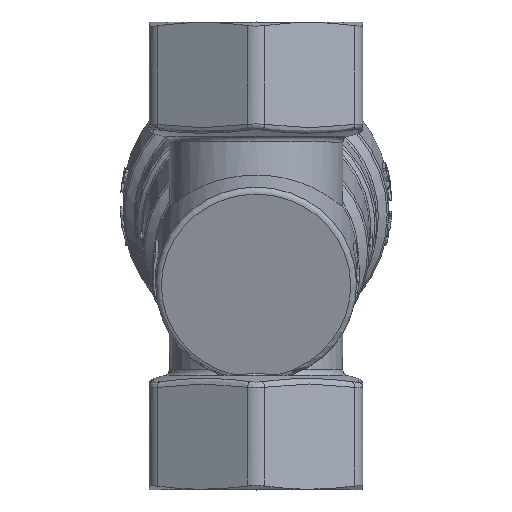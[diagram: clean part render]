
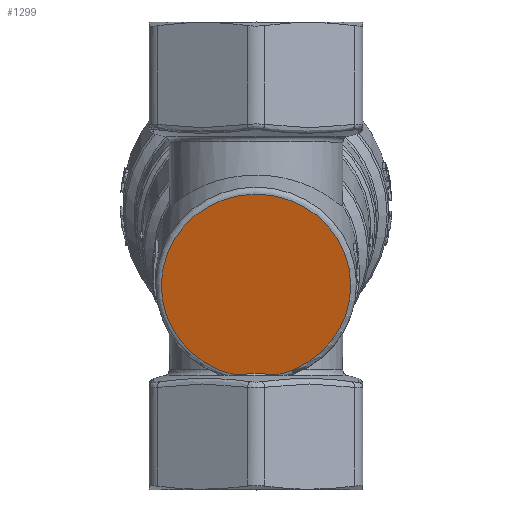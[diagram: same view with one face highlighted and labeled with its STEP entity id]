
A CAD part, top view. The second image highlights one B-rep face of the part: STEP entity #1299.
In plain terms, the highlighted planar face has unit normal (0, -0.259, 0.966).
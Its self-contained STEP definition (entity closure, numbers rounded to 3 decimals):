
#1299=ADVANCED_FACE('',(#7889),#7891,.T.);
#7889=FACE_BOUND('',#7890,.T.);
#7890=EDGE_LOOP('',(#11294,#11295));
#7891=PLANE('',#7892);
#7892=AXIS2_PLACEMENT_3D('',#7893,#7894,#7895);
#7893=CARTESIAN_POINT('',(0.,-5.176,19.319));
#7894=DIRECTION('',(0.,-0.259,0.966));
#7895=DIRECTION('',(0.,0.966,0.259));
#11294=ORIENTED_EDGE('',*,*,#14050,.T.);
#11295=ORIENTED_EDGE('',*,*,#14173,.T.);
#14050=EDGE_CURVE('',#15659,#15657,#15660,.T.);
#14173=EDGE_CURVE('',#15657,#15659,#15860,.T.);
#15657=VERTEX_POINT('',#21695);
#15659=VERTEX_POINT('',#21704);
#15660=CIRCLE('',#21705,16.4);
#15860=B_SPLINE_CURVE_WITH_KNOTS('',3,
(#22759,#22760,#22761,#22762,#22763,#22764,#22765,#22766,#22767,#22768,#22769,#22770,
#22771,#22772,#22773,#22774,#22775,#22776,#22777,#22778,#22779,#22780,#22781,#22782,
#22783,#22784,#22785,#22786,#22787,#22788,#22789,#22790,#22791,#22792,#22793,#22794,
#22795,#22796,#22797,#22798,#22799,#22800,#22801,#22802),
.UNSPECIFIED.,.F.,.F.,
(4,1,1,1,1,1,1,1,1,1,1,1,1,1,1,1,1,1,1,1,1,1,1,1,1,1,1,1,1,1,1,1,1,1,1,1,1,1,1,1,
1,4),
(0.,0.038,0.074,0.1,0.119,0.133,
0.147,0.167,0.188,0.21,0.227,
0.245,0.265,0.285,0.306,0.329,
0.352,0.376,0.401,0.426,0.453,
0.48,0.5,0.507,0.535,0.564,
0.592,0.62,0.648,0.676,0.704,
0.731,0.759,0.786,0.813,0.84,
0.867,0.894,0.92,0.947,0.973,
1.),
.UNSPECIFIED.);
#21695=CARTESIAN_POINT('',(-3.617,-20.627,15.178));
#21704=CARTESIAN_POINT('',(3.617,-20.627,15.178));
#21705=AXIS2_PLACEMENT_3D('',#21706,#21707,#21708);
#21706=CARTESIAN_POINT('',(0.,-5.176,19.319));
#21707=DIRECTION('',(0.,-0.259,0.966));
#21708=DIRECTION('',(0.221,-0.942,-0.252));
#22759=CARTESIAN_POINT('',(-3.617,-20.627,15.178));
#22760=CARTESIAN_POINT('',(-3.525,-20.618,15.181));
#22761=CARTESIAN_POINT('',(-3.348,-20.599,15.186));
#22762=CARTESIAN_POINT('',(-3.108,-20.573,15.193));
#22763=CARTESIAN_POINT('',(-2.913,-20.551,15.199));
#22764=CARTESIAN_POINT('',(-2.77,-20.535,15.203));
#22765=CARTESIAN_POINT('',(-2.657,-20.523,15.206));
#22766=CARTESIAN_POINT('',(-2.542,-20.51,15.21));
#22767=CARTESIAN_POINT('',(-2.409,-20.495,15.214));
#22768=CARTESIAN_POINT('',(-2.257,-20.479,15.218));
#22769=CARTESIAN_POINT('',(-2.112,-20.464,15.222));
#22770=CARTESIAN_POINT('',(-1.975,-20.45,15.226));
#22771=CARTESIAN_POINT('',(-1.842,-20.437,15.229));
#22772=CARTESIAN_POINT('',(-1.704,-20.424,15.233));
#22773=CARTESIAN_POINT('',(-1.558,-20.411,15.236));
#22774=CARTESIAN_POINT('',(-1.404,-20.399,15.24));
#22775=CARTESIAN_POINT('',(-1.242,-20.386,15.243));
#22776=CARTESIAN_POINT('',(-1.074,-20.375,15.246));
#22777=CARTESIAN_POINT('',(-0.9,-20.365,15.249));
#22778=CARTESIAN_POINT('',(-0.721,-20.356,15.251));
#22779=CARTESIAN_POINT('',(-0.534,-20.349,15.253));
#22780=CARTESIAN_POINT('',(-0.343,-20.343,15.255));
#22781=CARTESIAN_POINT('',(-0.164,-20.34,15.255));
#22782=CARTESIAN_POINT('',(-0.031,-20.34,15.255));
#22783=CARTESIAN_POINT('',(0.104,-20.34,15.255));
#22784=CARTESIAN_POINT('',(0.258,-20.342,15.255));
#22785=CARTESIAN_POINT('',(0.463,-20.346,15.254));
#22786=CARTESIAN_POINT('',(0.667,-20.353,15.252));
#22787=CARTESIAN_POINT('',(0.871,-20.363,15.249));
#22788=CARTESIAN_POINT('',(1.073,-20.375,15.246));
#22789=CARTESIAN_POINT('',(1.275,-20.389,15.242));
#22790=CARTESIAN_POINT('',(1.476,-20.404,15.238));
#22791=CARTESIAN_POINT('',(1.676,-20.422,15.234));
#22792=CARTESIAN_POINT('',(1.874,-20.44,15.229));
#22793=CARTESIAN_POINT('',(2.071,-20.46,15.223));
#22794=CARTESIAN_POINT('',(2.267,-20.48,15.218));
#22795=CARTESIAN_POINT('',(2.462,-20.501,15.212));
#22796=CARTESIAN_POINT('',(2.656,-20.523,15.207));
#22797=CARTESIAN_POINT('',(2.849,-20.544,15.201));
#22798=CARTESIAN_POINT('',(3.042,-20.566,15.195));
#22799=CARTESIAN_POINT('',(3.234,-20.587,15.189));
#22800=CARTESIAN_POINT('',(3.426,-20.608,15.184));
#22801=CARTESIAN_POINT('',(3.553,-20.621,15.18));
#22802=CARTESIAN_POINT('',(3.617,-20.627,15.178));
